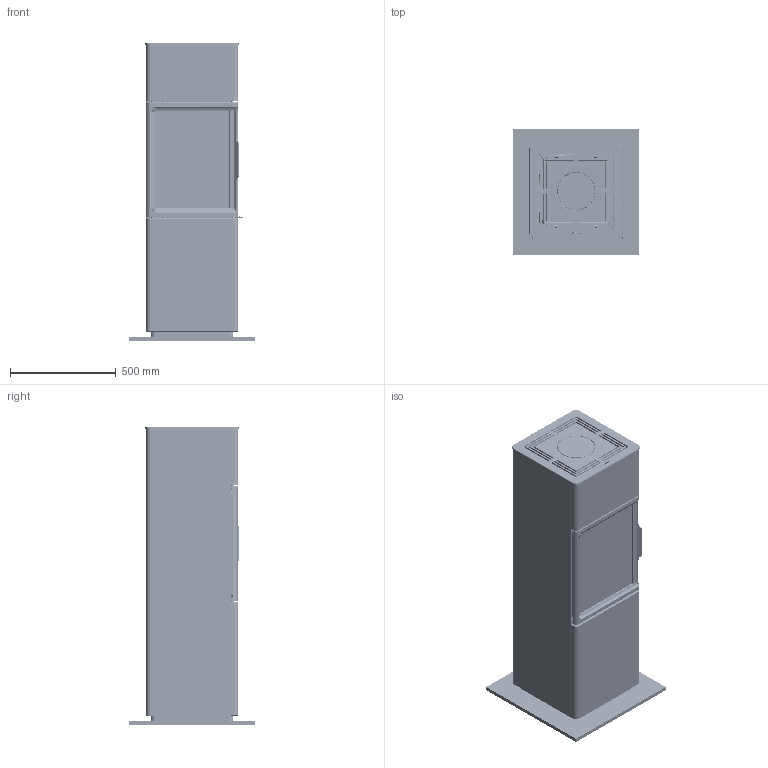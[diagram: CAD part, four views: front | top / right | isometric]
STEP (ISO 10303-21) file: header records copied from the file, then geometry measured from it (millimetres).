
FILE_DESCRIPTION(/* description */ ('Unknown'),/* implementation_level */ '2;1');
FILE_NAME(/* name */ 'Contura 410T höger svart',/* time_stamp */ '2026-03-31T10:34:47+02:00',/* author */ ('Unknown'),/* organization */ ('Unknown'),/* preprocessor_version */ 'ST-DEVELOPER v20',/* originating_system */ 'Solid Edge',/* authorisation */ 'Unknown');
FILE_SCHEMA (('AUTOMOTIVE_DESIGN {1 0 10303 214 3 1 1}'));
Products named in the file (293): DSN1137751; DSN1133862_oa_0; DSN1087734_oa_1; DSN1130404; DSN1089377; DSN1104774_oa_2; DSN1089373; DSN1099386; DSN1089374_oa_3; DSN1089386; DSN1074449; DSN1089387; DSN1123089_oa_4; DSN1089428; DSN1083847; FilletWeld_3; DSN1089429; FilletWeld_1; DSN1023399; DSN1083862; DSN1067626; FilletWeld_4; FilletWeld_5; DSN1121543; 416213 Blindnitmutter Sluten M10; DSN1121540; DSN1121542; DSN1121560; 016710 Skruv M6SF TT M6x16 fzb; 803700 Ställbar fot M10 kort; ExtrudedProtrusion_1; DSN1125092; ExtrudedProtrusion_2; ExtrudedProtrusion_3; FilletWeld_2; FilletWeld_6; FilletWeld_9; FilletWeld_12; FilletWeld_17; FilletWeld_23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
Assembly tree (485 placements, depth 7):
  DSN1137751
    DSN1133862_oa_0
      DSN1087734_oa_1
        DSN1130404
          DSN1089377
            DSN1104774_oa_2
            DSN1089373
            DSN1099386
            DSN1089374_oa_3
            DSN1089386
            DSN1074449  x2
            DSN1089387
            DSN1123089_oa_4
            DSN1089428
            DSN1083847
            FilletWeld_3
            DSN1089429
            FilletWeld_1
            DSN1023399  x2
            DSN1083862
            DSN1067626
            FilletWeld_4
            FilletWeld_5
            DSN1121543
              416213 Blindnitmutter Sluten M10  x4
              DSN1121540
              DSN1121542
              DSN1121560
              016710 Skruv M6SF TT M6x16 fzb  x4
              FilletWeld_1
              803700 Ställbar fot M10 kort  x4
              ExtrudedProtrusion_1
              DSN1125092  x2
              ExtrudedProtrusion_2
              ExtrudedProtrusion_3
              FilletWeld_2
            FilletWeld_6
            FilletWeld_9
            FilletWeld_12
            FilletWeld_17
            FilletWeld_23
            GrooveWeld_1
            GrooveWeld_2
            DSN1121563
            GrooveWeld_4
            FilletWeld_25
            FilletWeld_26
            GrooveWeld_10
            FilletWeld_30
            GrooveWeld_18
            GrooveWeld_17
            GrooveWeld_16
            GrooveWeld_15
            GrooveWeld_14
            GrooveWeld_19
            GrooveWeld_13
            FilletWeld_33
            FilletWeld_32
            FilletWeld_34
            ExtrudedProtrusion_5
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Bounding box: 600 x 600 x 1411 mm (x, y, z)
Volume: 65694803.2 mm3; surface area: 15424267.8 mm2
Topology: 574 solids, 576 shells, 22298 faces, 55749 edges, 34271 vertices
Faces by surface type: plane 9774, cylinder 6614, bspline 2215, torus 1843, cone 1370, sphere 482
Full cylindrical faces by diameter (mm): 1 x1, 1.5 x2, 3.242 x6, 3.291 x66, 3.4 x2, 3.5 x25, 3.65 x8, 3.8 x8, 4 x82, 4.15 x4, 4.2 x69, 4.3 x11, 4.334 x4, 4.5 x52, 4.6 x8, 4.8 x4, 4.917 x21, 4.918 x6, 5 x57, 5.2 x8, 5.3 x16, 5.5 x14, 5.6 x37, 5.7 x1, 5.8 x4, 5.9 x4, 6 x51, 6.1 x2, 6.2 x6, 6.3 x2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
Entity records: 501263 total; most frequent: CARTESIAN_POINT 148507, ORIENTED_EDGE 70698, DIRECTION 69657, EDGE_CURVE 35349, AXIS2_PLACEMENT_3D 24296, VERTEX_POINT 22470, LINE 21065, VECTOR 21065
